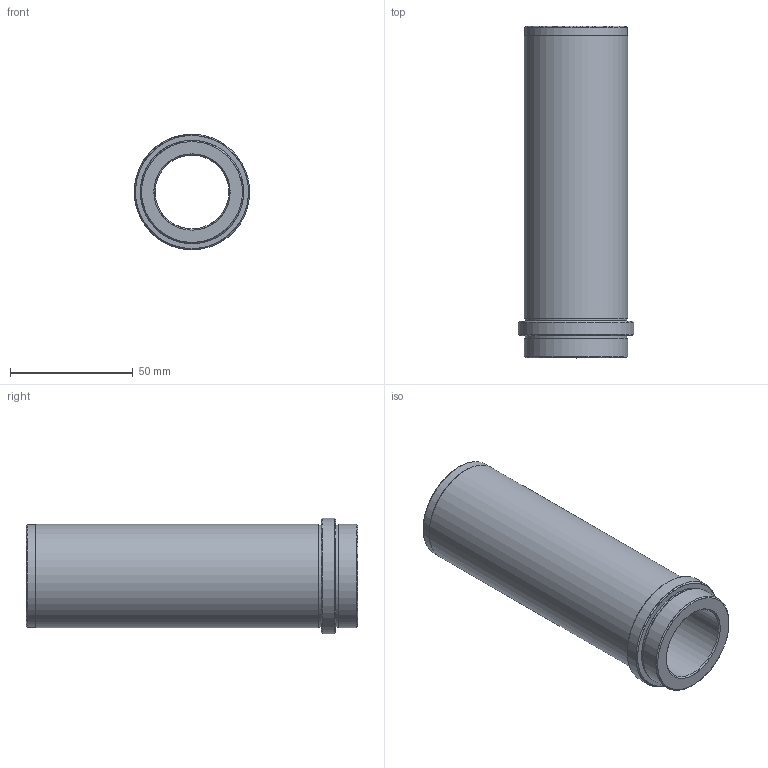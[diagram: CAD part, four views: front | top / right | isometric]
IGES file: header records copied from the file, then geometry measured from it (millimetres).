
Start section: Missler Software BP 521, 31674 Labege Cedex, France Tel   : +33 (0)5 61 00 03 00 Fax   : +33 (0)5 61 00 03 03 Email : sup.topsolid@topsolid.com
Global section: file name: D:\Cuma\24 03 2009\D21\D21_30X126.igs; native system: TopSolid v605250 Missler Software; preprocessor: IGES preprocessor v100000; date: 030101.000916; units: millimetre
Bounding box: 46.95 x 135 x 47 mm (x, y, z)
Surface area: 32652.8 mm2 (no closed solid volume)
Topology: 0 solids, 0 shells, 20 faces, 496 edges, 486 vertices
Faces by surface type: bspline 20
